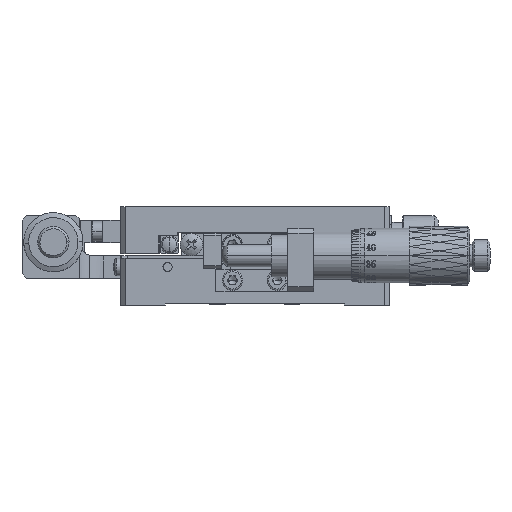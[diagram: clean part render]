
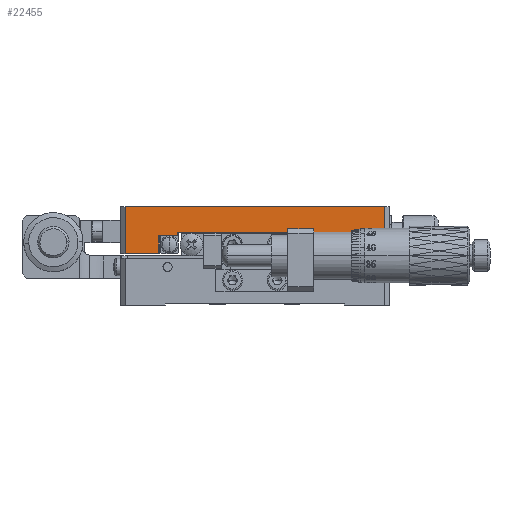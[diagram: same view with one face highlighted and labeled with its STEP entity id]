
A CAD part, top view. The second image highlights one B-rep face of the part: STEP entity #22455.
In plain terms, the highlighted planar face has unit normal (0, 0, 1).
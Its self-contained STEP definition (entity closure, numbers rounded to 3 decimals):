
#2475 = ORIENTED_EDGE ( 'NONE', *, *, #69473, .F. ) ;
#2582 = EDGE_CURVE ( 'NONE', #104084, #121839, #64835, .T. ) ;
#7929 = LINE ( 'NONE', #84032, #137546 ) ;
#14389 = CARTESIAN_POINT ( 'NONE',  ( 65.542, 52.74, 66.684 ) ) ;
#17213 = CARTESIAN_POINT ( 'NONE',  ( 66.542, 42.24, 66.684 ) ) ;
#19195 = CARTESIAN_POINT ( 'NONE',  ( 15.042, 42.24, 66.684 ) ) ;
#21445 = CARTESIAN_POINT ( 'NONE',  ( 15.042, 42.24, 66.684 ) ) ;
#22455 = ADVANCED_FACE ( 'NONE', ( #59813 ), #86792, .F. ) ;
#22920 = ORIENTED_EDGE ( 'NONE', *, *, #64720, .T. ) ;
#25288 = VECTOR ( 'NONE', #51518, 1000. ) ;
#26129 = EDGE_CURVE ( 'NONE', #103182, #121839, #53272, .T. ) ;
#26601 = VERTEX_POINT ( 'NONE', #144663 ) ;
#27980 = LINE ( 'NONE', #77912, #89033 ) ;
#30011 = LINE ( 'NONE', #103763, #139335 ) ;
#30113 = ORIENTED_EDGE ( 'NONE', *, *, #92735, .F. ) ;
#30357 = VERTEX_POINT ( 'NONE', #145258 ) ;
#31672 = LINE ( 'NONE', #156115, #148149 ) ;
#31826 = LINE ( 'NONE', #143990, #77953 ) ;
#32251 = VERTEX_POINT ( 'NONE', #85931 ) ;
#39945 = VECTOR ( 'NONE', #106360, 1000. ) ;
#40258 = EDGE_CURVE ( 'NONE', #114184, #104084, #31672, .T. ) ;
#46419 = CARTESIAN_POINT ( 'NONE',  ( 57.842, 42.24, 66.684 ) ) ;
#47459 = VECTOR ( 'NONE', #128529, 1000. ) ;
#48358 = CARTESIAN_POINT ( 'NONE',  ( 19.242, 42.24, 66.684 ) ) ;
#51518 = DIRECTION ( 'NONE',  ( -1., 0., 0. ) ) ;
#53031 = EDGE_CURVE ( 'NONE', #30357, #101599, #7929, .T. ) ;
#53272 = LINE ( 'NONE', #17213, #47459 ) ;
#54203 = ORIENTED_EDGE ( 'NONE', *, *, #75903, .T. ) ;
#58894 = EDGE_CURVE ( 'NONE', #103182, #101599, #134398, .T. ) ;
#59813 = FACE_OUTER_BOUND ( 'NONE', #105576, .T. ) ;
#62237 = LINE ( 'NONE', #48358, #66592 ) ;
#62412 = CARTESIAN_POINT ( 'NONE',  ( 53.842, 46.24, 66.684 ) ) ;
#64720 = EDGE_CURVE ( 'NONE', #26601, #114184, #27980, .T. ) ;
#64835 = LINE ( 'NONE', #138525, #126892 ) ;
#66402 = DIRECTION ( 'NONE',  ( 0., 1., 0. ) ) ;
#66592 = VECTOR ( 'NONE', #112206, 1000. ) ;
#69473 = EDGE_CURVE ( 'NONE', #26601, #150449, #131676, .T. ) ;
#70838 = CARTESIAN_POINT ( 'NONE',  ( 15.042, 46.24, 66.684 ) ) ;
#73685 = DIRECTION ( 'NONE',  ( 1., 0., 0. ) ) ;
#75903 = EDGE_CURVE ( 'NONE', #32251, #122946, #30011, .T. ) ;
#77576 = ORIENTED_EDGE ( 'NONE', *, *, #53031, .F. ) ;
#77912 = CARTESIAN_POINT ( 'NONE',  ( 65.542, 42.24, 66.684 ) ) ;
#77953 = VECTOR ( 'NONE', #90841, 1000. ) ;
#80933 = CARTESIAN_POINT ( 'NONE',  ( 66.542, 42.24, 66.684 ) ) ;
#83240 = DIRECTION ( 'NONE',  ( -1., 0., 0. ) ) ;
#84032 = CARTESIAN_POINT ( 'NONE',  ( 57.542, 46.24, 66.684 ) ) ;
#85931 = CARTESIAN_POINT ( 'NONE',  ( 53.842, 47.04, 66.684 ) ) ;
#86024 = VECTOR ( 'NONE', #131182, 1000. ) ;
#86571 = EDGE_CURVE ( 'NONE', #32251, #98297, #113750, .T. ) ;
#86792 = PLANE ( 'NONE',  #98920 ) ;
#86855 = ORIENTED_EDGE ( 'NONE', *, *, #2582, .T. ) ;
#88092 = CARTESIAN_POINT ( 'NONE',  ( 7.542, 52.74, 66.684 ) ) ;
#89033 = VECTOR ( 'NONE', #66402, 1000. ) ;
#90631 = DIRECTION ( 'NONE',  ( 0., -1., 0. ) ) ;
#90841 = DIRECTION ( 'NONE',  ( -1., 0., 0. ) ) ;
#92735 = EDGE_CURVE ( 'NONE', #130555, #122946, #31826, .T. ) ;
#94186 = ORIENTED_EDGE ( 'NONE', *, *, #151644, .T. ) ;
#98075 = VECTOR ( 'NONE', #156126, 1000. ) ;
#98297 = VERTEX_POINT ( 'NONE', #124011 ) ;
#98920 = AXIS2_PLACEMENT_3D ( 'NONE', #108955, #136697, #73685 ) ;
#101599 = VERTEX_POINT ( 'NONE', #70838 ) ;
#103182 = VERTEX_POINT ( 'NONE', #19195 ) ;
#103763 = CARTESIAN_POINT ( 'NONE',  ( 53.842, 42.24, 66.684 ) ) ;
#104084 = VERTEX_POINT ( 'NONE', #88092 ) ;
#105576 = EDGE_LOOP ( 'NONE', ( #77576, #136421, #112285, #54203, #30113, #94186, #2475, #22920, #119945, #86855, #107265, #153725 ) ) ;
#106360 = DIRECTION ( 'NONE',  ( -1., 0., 0. ) ) ;
#107265 = ORIENTED_EDGE ( 'NONE', *, *, #26129, .F. ) ;
#108955 = CARTESIAN_POINT ( 'NONE',  ( 66.542, 42.24, 66.684 ) ) ;
#110880 = CARTESIAN_POINT ( 'NONE',  ( 57.842, 46.24, 66.684 ) ) ;
#112206 = DIRECTION ( 'NONE',  ( 0., 1., 0. ) ) ;
#112285 = ORIENTED_EDGE ( 'NONE', *, *, #86571, .F. ) ;
#113750 = LINE ( 'NONE', #151359, #25288 ) ;
#114184 = VERTEX_POINT ( 'NONE', #14389 ) ;
#116853 = EDGE_CURVE ( 'NONE', #30357, #98297, #62237, .T. ) ;
#119945 = ORIENTED_EDGE ( 'NONE', *, *, #40258, .T. ) ;
#121839 = VERTEX_POINT ( 'NONE', #137051 ) ;
#122946 = VERTEX_POINT ( 'NONE', #62412 ) ;
#124011 = CARTESIAN_POINT ( 'NONE',  ( 19.242, 47.04, 66.684 ) ) ;
#126892 = VECTOR ( 'NONE', #139328, 1000. ) ;
#128529 = DIRECTION ( 'NONE',  ( -1., 0., 0. ) ) ;
#130555 = VERTEX_POINT ( 'NONE', #110880 ) ;
#130753 = DIRECTION ( 'NONE',  ( -1., 0., 0. ) ) ;
#131182 = DIRECTION ( 'NONE',  ( 0., 1., 0. ) ) ;
#131676 = LINE ( 'NONE', #80933, #39945 ) ;
#134398 = LINE ( 'NONE', #21445, #86024 ) ;
#136421 = ORIENTED_EDGE ( 'NONE', *, *, #116853, .T. ) ;
#136697 = DIRECTION ( 'NONE',  ( 0., 0., -1. ) ) ;
#137051 = CARTESIAN_POINT ( 'NONE',  ( 7.542, 42.24, 66.684 ) ) ;
#137546 = VECTOR ( 'NONE', #83240, 1000. ) ;
#138525 = CARTESIAN_POINT ( 'NONE',  ( 7.542, 42.24, 66.684 ) ) ;
#139328 = DIRECTION ( 'NONE',  ( 0., -1., 0. ) ) ;
#139335 = VECTOR ( 'NONE', #90631, 1000. ) ;
#143990 = CARTESIAN_POINT ( 'NONE',  ( 57.542, 46.24, 66.684 ) ) ;
#144663 = CARTESIAN_POINT ( 'NONE',  ( 65.542, 42.24, 66.684 ) ) ;
#145012 = CARTESIAN_POINT ( 'NONE',  ( 57.842, 42.24, 66.684 ) ) ;
#145258 = CARTESIAN_POINT ( 'NONE',  ( 19.242, 46.24, 66.684 ) ) ;
#148149 = VECTOR ( 'NONE', #130753, 1000. ) ;
#150449 = VERTEX_POINT ( 'NONE', #145012 ) ;
#151359 = CARTESIAN_POINT ( 'NONE',  ( 53.542, 47.04, 66.684 ) ) ;
#151644 = EDGE_CURVE ( 'NONE', #130555, #150449, #158524, .T. ) ;
#153725 = ORIENTED_EDGE ( 'NONE', *, *, #58894, .T. ) ;
#156115 = CARTESIAN_POINT ( 'NONE',  ( 66.542, 52.74, 66.684 ) ) ;
#156126 = DIRECTION ( 'NONE',  ( 0., -1., 0. ) ) ;
#158524 = LINE ( 'NONE', #46419, #98075 ) ;
